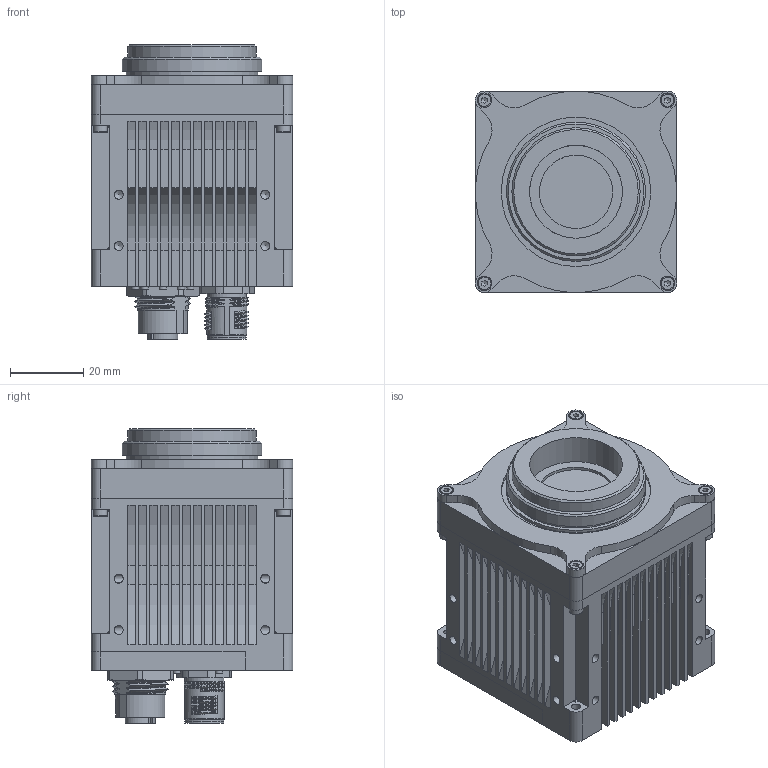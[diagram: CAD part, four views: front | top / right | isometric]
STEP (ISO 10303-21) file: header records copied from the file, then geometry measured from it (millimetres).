
FILE_DESCRIPTION(/* description */ ('C6-1280_2040_M42x1_ (C-Mount)'),/* implementation_level */ '2;1');
FILE_NAME(/* name */ 'C:\Vault\Designs\02_3D\Kameras\C6\Public\C6-1280_2040-GigE_M42x1_ with C-Mount Adapter (Option)_R1.stp',/* time_stamp */ '2023-09-28T12:27:14+02:00',/* author */ ('Sergej.Hartung'),/* organization */ ('Automation Technology GmbH'),/* preprocessor_version */ 'ST-DEVELOPER v18.1',/* originating_system */ 'Autodesk Inventor 2022',/* authorisation */ '');
FILE_SCHEMA (('AUTOMOTIVE_DESIGN { 1 0 10303 214 3 1 1 }'));
Products named in the file (18): C6-1280_2040_M42x1_ (C-Mount); 102903401-009_a_Public; 202203000-015_Public; 202203000-002; 102903401-002_Public; ISO 4762  - M2 x 6; ISO 4762  - M2 x 4; C-Mount-Bandpassfilter-BP660-25,4; SACC-DSI-MS-17CON-M12 SCO SH_1437119-02; SACC-DSI-MS-17CON-M12 SCO SH_1437119_Stecker; SACC-DSI-MS-17CON-M12 SCO SH_1437119_Mutter; SACC-DSI-MS-17CON-M12 SCO SH_1437119_Pins; SACC-DSI-MS-17CON-M12 SCO SH_1437119_Kunststoffeinsatz; SACC-DSI-FS-8CON-L180_SCO SH_1553860-02; SACC-DSI-FS-8CON-L180_SCO SH_1553860_Stecker; SACC-DSI-FS-8CON-L180_SCO SH_1553860_Mutter; SACC-DSI-FS-8CON-L180_SCO SH_1553860_Kunststoffeinsatz; 1292.6001
Assembly tree (31 placements, depth 3):
  C6-1280_2040_M42x1_ (C-Mount)
    102903401-009_a_Public
    202203000-015_Public
    202203000-002
    102903401-002_Public
    ISO 4762  - M2 x 6  x8
    ISO 4762  - M2 x 4  x4
    C-Mount-Bandpassfilter-BP660-25,4
    SACC-DSI-MS-17CON-M12 SCO SH_1437119-02
      SACC-DSI-MS-17CON-M12 SCO SH_1437119_Stecker
      SACC-DSI-MS-17CON-M12 SCO SH_1437119_Mutter
      SACC-DSI-MS-17CON-M12 SCO SH_1437119_Pins
      SACC-DSI-MS-17CON-M12 SCO SH_1437119_Kunststoffeinsatz
    SACC-DSI-FS-8CON-L180_SCO SH_1553860-02
      SACC-DSI-FS-8CON-L180_SCO SH_1553860_Stecker
      SACC-DSI-FS-8CON-L180_SCO SH_1553860_Mutter
      SACC-DSI-FS-8CON-L180_SCO SH_1553860_Kunststoffeinsatz
    1292.6001  x5
Bounding box: 55 x 55 x 80.55 mm (x, y, z)
Volume: 139461.2 mm3; surface area: 63755.2 mm2
Topology: 49 solids, 68 shells, 2049 faces, 5122 edges, 3378 vertices
Faces by surface type: plane 983, cylinder 544, bspline 325, cone 97, torus 66, sphere 34
Full cylindrical faces by diameter (mm): 0.217 x1, 0.6 x25, 0.63 x34, 0.9 x8, 1 x10, 1.1 x17, 1.2 x17, 1.5 x5, 1.567 x16, 1.6 x5, 2 x23, 2.1 x4, 2.2 x4, 2.459 x18, 3.8 x12, 4 x8, 7.7 x1, 8.25 x2, 8.3 x1, 8.7 x1, 10.5 x1, 10.7 x3, 10.917 x2, 12 x1, 12.2 x1, 12.9 x2, 13.9 x1, 14 x1, 14.5 x1, 18 x1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
Entity records: 93410 total; most frequent: CARTESIAN_POINT 48289, ORIENTED_EDGE 9366, DIRECTION 8384, EDGE_CURVE 4683, VERTEX_POINT 3118, AXIS2_PLACEMENT_3D 2922, LINE 2540, VECTOR 2540
